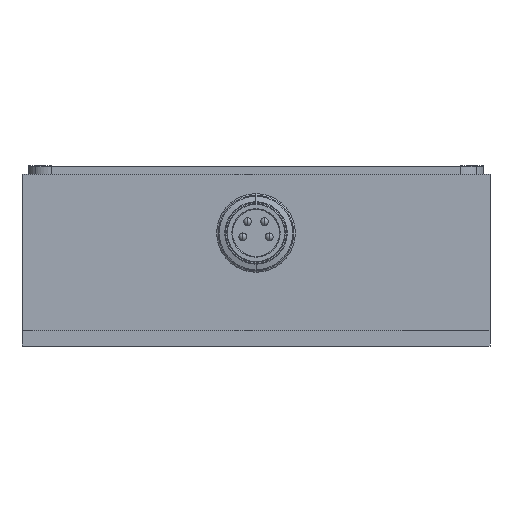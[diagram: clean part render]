
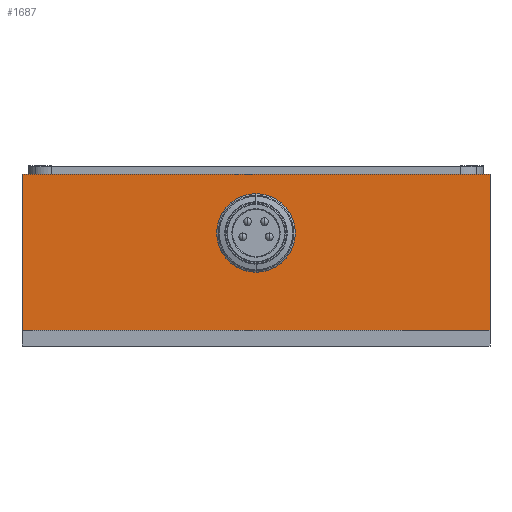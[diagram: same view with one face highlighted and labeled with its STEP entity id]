
A CAD part, left-side view. The second image highlights one B-rep face of the part: STEP entity #1687.
In plain terms, the highlighted planar face has unit normal (-1, 0, 0).
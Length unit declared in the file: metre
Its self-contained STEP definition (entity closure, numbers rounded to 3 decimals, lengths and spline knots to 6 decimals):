
#1687=ADVANCED_FACE('27:21156',(#3448,#3449),#3450,.T.);
#3448=FACE_BOUND('',#5242,.T.);
#3449=FACE_OUTER_BOUND('',#5243,.T.);
#3450=PLANE('',#5244);
#5242=EDGE_LOOP('',(#10498,#10499));
#5243=EDGE_LOOP('',(#10500,#10501,#10502,#10503));
#5244=AXIS2_PLACEMENT_3D('',#10504,#10505,#10506);
#10498=ORIENTED_EDGE('',*,*,#11296,.T.);
#10499=ORIENTED_EDGE('',*,*,#12795,.T.);
#10500=ORIENTED_EDGE('',*,*,#12380,.T.);
#10501=ORIENTED_EDGE('',*,*,#12126,.F.);
#10502=ORIENTED_EDGE('',*,*,#12507,.T.);
#10503=ORIENTED_EDGE('',*,*,#11129,.T.);
#10504=CARTESIAN_POINT('',(-0.07,-0.001,0.001));
#10505=DIRECTION('',(-1.0,0.0,0.0));
#10506=DIRECTION('',(0.0,-1.0,0.0));
#11129=EDGE_CURVE('27:22962',#13539,#13537,#13540,.F.);
#11296=EDGE_CURVE('27:22095',#13822,#13820,#13823,.T.);
#12126=EDGE_CURVE('27:22956',#15072,#15065,#15074,.T.);
#12380=EDGE_CURVE('27:22953',#13537,#15065,#15408,.T.);
#12507=EDGE_CURVE('27:22959',#15072,#13539,#15564,.F.);
#12795=EDGE_CURVE('',#13820,#13822,#15880,.T.);
#13537=VERTEX_POINT('',#17050);
#13539=VERTEX_POINT('',#17053);
#13540=LINE('',#17054,#17055);
#13820=VERTEX_POINT('',#17471);
#13822=VERTEX_POINT('',#17474);
#13823=CIRCLE('',#17475,0.00225);
#15065=VERTEX_POINT('',#19857);
#15072=VERTEX_POINT('',#19868);
#15074=LINE('',#19871,#19872);
#15408=LINE('',#20392,#20393);
#15564=LINE('',#20679,#20680);
#15880=CIRCLE('',#21150,0.00225);
#17050=CARTESIAN_POINT('',(-0.07,-0.031,0.021));
#17053=CARTESIAN_POINT('',(-0.07,-0.031,0.001));
#17054=CARTESIAN_POINT('',(-0.07,-0.031,0.001));
#17055=VECTOR('',#21771,1.0);
#17471=CARTESIAN_POINT('',(-0.07,0.00125,0.0135));
#17474=CARTESIAN_POINT('',(-0.07,-0.00325,0.0135));
#17475=AXIS2_PLACEMENT_3D('',#21999,#22000,#22001);
#19857=CARTESIAN_POINT('',(-0.07,0.029,0.021));
#19868=CARTESIAN_POINT('',(-0.07,0.029,0.001));
#19871=CARTESIAN_POINT('',(-0.07,0.029,0.001));
#19872=VECTOR('',#23056,1.0);
#20392=CARTESIAN_POINT('',(-0.07,-0.001,0.021));
#20393=VECTOR('',#23382,1.0);
#20679=CARTESIAN_POINT('',(-0.07,-0.001,0.001));
#20680=VECTOR('',#23506,1.0);
#21150=AXIS2_PLACEMENT_3D('',#23787,#23788,#23789);
#21771=DIRECTION('',(-0.0,-0.0,-1.0));
#21999=CARTESIAN_POINT('',(-0.07,-0.001,0.0135));
#22000=DIRECTION('',(1.0,0.0,0.0));
#22001=DIRECTION('',(0.0,1.0,0.0));
#23056=DIRECTION('',(0.0,0.0,1.0));
#23382=DIRECTION('',(0.0,1.0,0.0));
#23506=DIRECTION('',(0.0,1.0,0.0));
#23787=CARTESIAN_POINT('',(-0.07,-0.001,0.0135));
#23788=DIRECTION('',(1.0,0.0,0.0));
#23789=DIRECTION('',(0.0,1.0,0.0));
